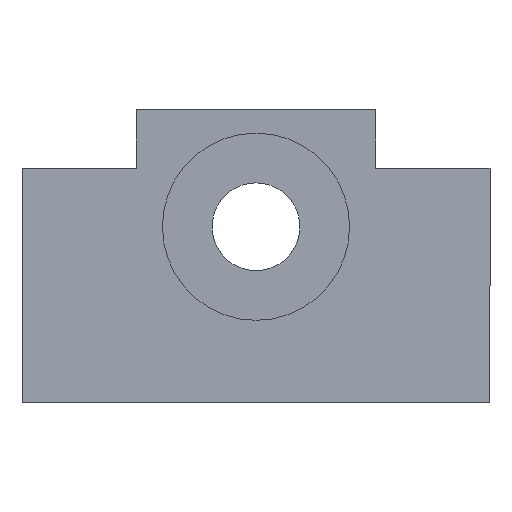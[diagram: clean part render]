
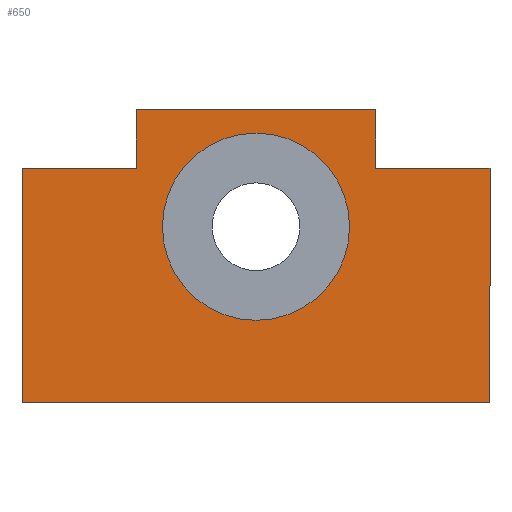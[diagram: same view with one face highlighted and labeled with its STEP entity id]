
A CAD part, left-side view. The second image highlights one B-rep face of the part: STEP entity #650.
In plain terms, the highlighted planar face has unit normal (-1, 0, 0).
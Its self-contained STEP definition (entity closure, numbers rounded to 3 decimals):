
#360=CARTESIAN_POINT('',(0.0,16.0,0.));
#361=VERTEX_POINT('',#360);
#362=CARTESIAN_POINT('',(0.0,0.0,0.0));
#363=DIRECTION('',(1.0,0.0,0.0));
#364=DIRECTION('',(0.0,-1.0,0.0));
#365=AXIS2_PLACEMENT_3D('',#362,#363,#364);
#366=CIRCLE('',#365,16.0);
#367=EDGE_CURVE('',#361,#361,#366,.T.);
#387=CARTESIAN_POINT('',(0.0,-40.0,10.));
#388=VERTEX_POINT('',#387);
#395=CARTESIAN_POINT('',(0.0,-40.,-30.));
#396=VERTEX_POINT('',#395);
#397=CARTESIAN_POINT('',(0.0,-40.0,10.));
#398=DIRECTION('',(0.0,0.0,-1.0));
#399=VECTOR('',#398,40.);
#400=LINE('',#397,#399);
#401=EDGE_CURVE('',#388,#396,#400,.T.);
#425=CARTESIAN_POINT('',(0.0,-20.5,10.));
#426=VERTEX_POINT('',#425);
#433=CARTESIAN_POINT('',(0.0,-20.5,10.));
#434=DIRECTION('',(0.0,-1.0,0.0));
#435=VECTOR('',#434,19.5);
#436=LINE('',#433,#435);
#437=EDGE_CURVE('',#426,#388,#436,.T.);
#459=CARTESIAN_POINT('',(0.0,-20.5,20.));
#460=VERTEX_POINT('',#459);
#467=CARTESIAN_POINT('',(0.0,-20.5,20.));
#468=DIRECTION('',(0.0,0.0,-1.0));
#469=VECTOR('',#468,10.0);
#470=LINE('',#467,#469);
#471=EDGE_CURVE('',#460,#426,#470,.T.);
#490=CARTESIAN_POINT('',(0.0,20.5,20.));
#491=VERTEX_POINT('',#490);
#498=CARTESIAN_POINT('',(0.0,20.5,20.));
#499=DIRECTION('',(0.0,-1.0,0.0));
#500=VECTOR('',#499,41.);
#501=LINE('',#498,#500);
#502=EDGE_CURVE('',#491,#460,#501,.T.);
#521=CARTESIAN_POINT('',(0.0,20.5,10.));
#522=VERTEX_POINT('',#521);
#529=CARTESIAN_POINT('',(0.0,20.5,10.));
#530=DIRECTION('',(0.0,0.0,1.0));
#531=VECTOR('',#530,10.0);
#532=LINE('',#529,#531);
#533=EDGE_CURVE('',#522,#491,#532,.T.);
#552=CARTESIAN_POINT('',(0.0,40.0,10.));
#553=VERTEX_POINT('',#552);
#560=CARTESIAN_POINT('',(0.0,40.0,10.));
#561=DIRECTION('',(0.0,-1.0,0.0));
#562=VECTOR('',#561,19.5);
#563=LINE('',#560,#562);
#564=EDGE_CURVE('',#553,#522,#563,.T.);
#586=CARTESIAN_POINT('',(0.0,40.,-30.));
#587=VERTEX_POINT('',#586);
#594=CARTESIAN_POINT('',(0.0,40.,-30.));
#595=DIRECTION('',(0.0,0.0,1.0));
#596=VECTOR('',#595,40.);
#597=LINE('',#594,#596);
#598=EDGE_CURVE('',#587,#553,#597,.T.);
#616=CARTESIAN_POINT('',(0.0,-40.,-30.));
#617=DIRECTION('',(0.0,1.0,0.0));
#618=VECTOR('',#617,80.);
#619=LINE('',#616,#618);
#620=EDGE_CURVE('',#396,#587,#619,.T.);
#632=CARTESIAN_POINT('',(0.0,0.,-6.5));
#633=DIRECTION('',(1.0,0.0,0.0));
#634=DIRECTION('',(0.0,0.0,-1.0));
#635=AXIS2_PLACEMENT_3D('',#632,#633,#634);
#636=PLANE('',#635);
#637=ORIENTED_EDGE('',*,*,#620,.F.);
#638=ORIENTED_EDGE('',*,*,#401,.F.);
#639=ORIENTED_EDGE('',*,*,#437,.F.);
#640=ORIENTED_EDGE('',*,*,#471,.F.);
#641=ORIENTED_EDGE('',*,*,#502,.F.);
#642=ORIENTED_EDGE('',*,*,#533,.F.);
#643=ORIENTED_EDGE('',*,*,#564,.F.);
#644=ORIENTED_EDGE('',*,*,#598,.F.);
#645=EDGE_LOOP('',(#637,#638,#639,#640,#641,#642,#643,#644));
#646=FACE_OUTER_BOUND('',#645,.T.);
#647=ORIENTED_EDGE('',*,*,#367,.T.);
#648=EDGE_LOOP('',(#647));
#649=FACE_BOUND('',#648,.T.);
#650=ADVANCED_FACE('',(#646,#649),#636,.F.);
